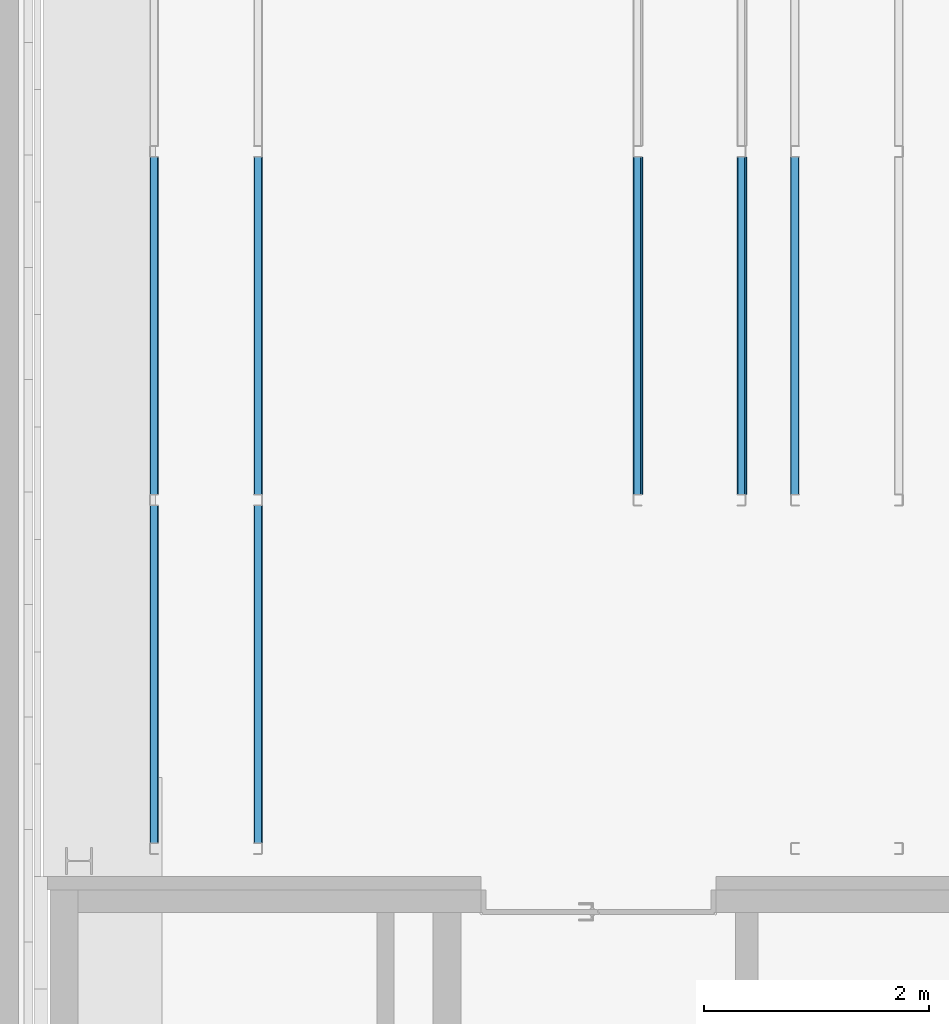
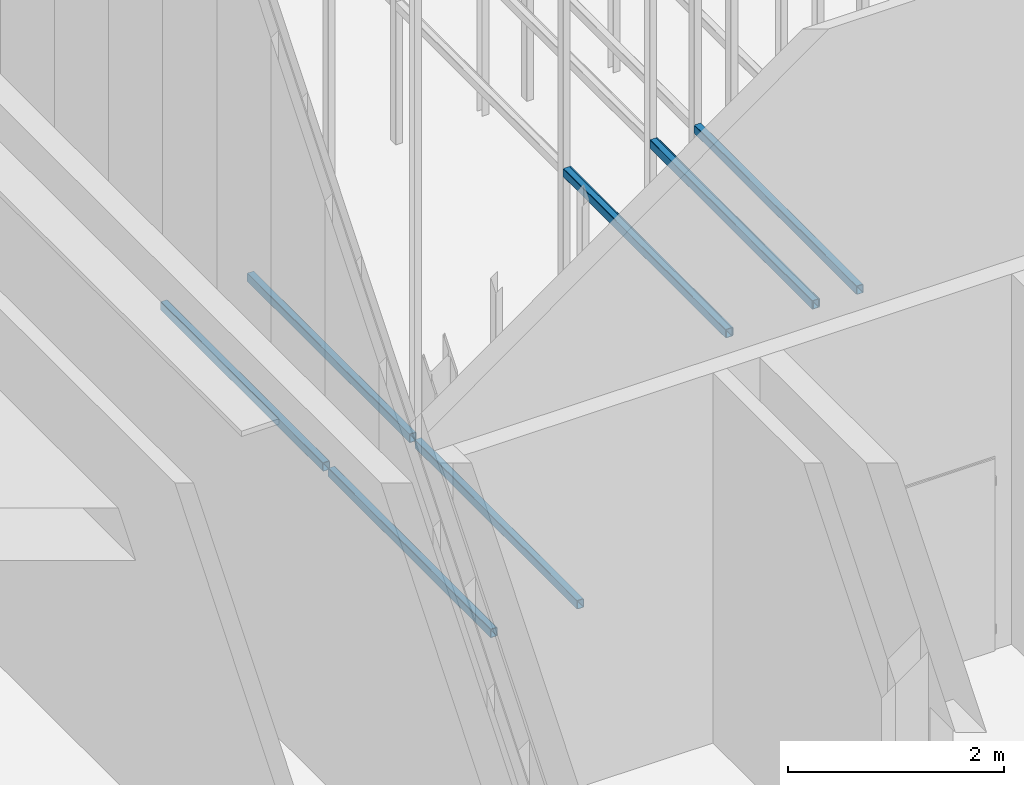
# One storey, part 138 of 302: 9 beams.
"""IFC2X3 building model written with IfcOpenShell, lengths in metres."""

from ifc_helpers import new_model, entity, si_unit, converted_unit, derived_unit, direction, frame, frame_2d, origin, place, context, subcontext, project, spatial, polyline, circle_curve, parameter, trimmed, segment, composite_curve, outline, extrude, material, type_object, element, save


model = new_model("IFC2X3")

# Units and contexts
model_context = context("Model", 3, precision=1e-05, world=origin(), true_north=direction((6.12303176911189e-17, 1.0)))
body_context = subcontext(model_context, "Body", "Model", "MODEL_VIEW")
ifc_project = project(units=[si_unit("LENGTHUNIT", "METRE"), si_unit("AREAUNIT", "SQUARE_METRE"), si_unit("VOLUMEUNIT", "CUBIC_METRE"), converted_unit("PLANEANGLEUNIT", "DEGREE", entity("IfcRatioMeasure", 0.0174532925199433), si_unit("PLANEANGLEUNIT", "RADIAN"), dimensions=[0, 0, 0, 0, 0, 0, 0]), si_unit("MASSUNIT", "GRAM", prefix="KILO"), derived_unit("MASSDENSITYUNIT", [(si_unit("MASSUNIT", "GRAM", prefix="KILO"), 1), (si_unit("LENGTHUNIT", "METRE"), -3)]), derived_unit("MOMENTOFINERTIAUNIT", [(si_unit("LENGTHUNIT", "METRE"), 4)]), si_unit("TIMEUNIT", "SECOND"), si_unit("FREQUENCYUNIT", "HERTZ"), si_unit("THERMODYNAMICTEMPERATUREUNIT", "DEGREE_CELSIUS"), derived_unit("THERMALTRANSMITTANCEUNIT", [(si_unit("MASSUNIT", "GRAM", prefix="KILO"), 1), (si_unit("THERMODYNAMICTEMPERATUREUNIT", "KELVIN"), -1), (si_unit("TIMEUNIT", "SECOND"), -3)]), derived_unit("VOLUMETRICFLOWRATEUNIT", [(si_unit("LENGTHUNIT", "METRE"), 3), (si_unit("TIMEUNIT", "SECOND"), -1)]), si_unit("ELECTRICCURRENTUNIT", "AMPERE"), si_unit("ELECTRICVOLTAGEUNIT", "VOLT"), si_unit("POWERUNIT", "WATT"), si_unit("FORCEUNIT", "NEWTON", prefix="KILO"), si_unit("ILLUMINANCEUNIT", "LUX"), si_unit("LUMINOUSFLUXUNIT", "LUMEN"), si_unit("LUMINOUSINTENSITYUNIT", "CANDELA"), derived_unit("USERDEFINED", [(si_unit("MASSUNIT", "GRAM", prefix="KILO"), -1), (si_unit("LENGTHUNIT", "METRE"), -2), (si_unit("TIMEUNIT", "SECOND"), 3), (si_unit("LUMINOUSFLUXUNIT", "LUMEN"), 1)]), derived_unit("LINEARVELOCITYUNIT", [(si_unit("LENGTHUNIT", "METRE"), 1), (si_unit("TIMEUNIT", "SECOND"), -1)]), si_unit("PRESSUREUNIT", "PASCAL"), derived_unit("USERDEFINED", [(si_unit("LENGTHUNIT", "METRE"), -2), (si_unit("MASSUNIT", "GRAM", prefix="KILO"), 1), (si_unit("TIMEUNIT", "SECOND"), -2)]), derived_unit("LINEARFORCEUNIT", [(si_unit("MASSUNIT", "GRAM", prefix="KILO"), 1), (si_unit("LENGTHUNIT", "METRE"), 1), (si_unit("TIMEUNIT", "SECOND"), -2), (si_unit("LENGTHUNIT", "METRE"), -1)]), derived_unit("PLANARFORCEUNIT", [(si_unit("MASSUNIT", "GRAM", prefix="KILO"), 1), (si_unit("LENGTHUNIT", "METRE"), 1), (si_unit("TIMEUNIT", "SECOND"), -2), (si_unit("LENGTHUNIT", "METRE"), -2)])], contexts=[model_context])

# Site, building, storey
site_placement = place(None, origin())
site = spatial("IfcSite", under=ifc_project, at=site_placement, Name="Default", CompositionType="ELEMENT")
building_placement = place(site_placement, origin())
building = spatial("IfcBuilding", under=site, at=building_placement, CompositionType="ELEMENT")
storey_placement = place(building_placement, frame((0.0, 0.0, -1.3)))
storey = spatial("IfcBuildingStorey", under=building, at=storey_placement, Name="00_EG", CompositionType="ELEMENT", Elevation=-1.3)

# Beams
ifc_material = material(Name="Metall - Baustahl S235 blau")
beam_type = type_object("IfcBeamType", Name="RHS Träger (EN 10219-2):RHS 100 x 75 x 5", PredefinedType="NOTDEFINED")
beam_1_placement = place(storey_placement, frame((-200.715111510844, 27.148088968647, 2.885), z_axis=(0.0, 0.0, 1.0), x_axis=(0.0, 1.0, 0.0)))
element("IfcBeam", 1, at=beam_1_placement, inside=storey, type_object=beam_type, material=ifc_material, Name="RHS Träger (EN 10219-2):RHS 100 x 75 x 5", ObjectType="RHS Träger (EN 10219-2):RHS 100 x 75 x 5", context=body_context, shape_type="SweptSolid", body=[
    extrude(outline(composite_curve([segment(trimmed(circle_curve(frame_2d((-0.0274999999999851, -0.0400000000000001), x_axis=(1.0, 0.0)), 0.01), [parameter(180.0)], [parameter(270.0)], True, "PARAMETER"), True, "CONTINUOUS"), segment(polyline([(-0.0274999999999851, -0.05), (0.0274999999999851, -0.05)]), True, "CONTINUOUS"), segment(trimmed(circle_curve(frame_2d((0.0274999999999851, -0.0400000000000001), x_axis=(1.0, 0.0)), 0.01), [parameter(270.0)], [parameter(5.08888749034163e-14)], True, "PARAMETER"), True, "CONTINUOUS"), segment(polyline([(0.0375000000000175, -0.0399999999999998), (0.0375000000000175, 0.0400000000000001)]), True, "CONTINUOUS"), segment(trimmed(circle_curve(frame_2d((0.0274999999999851, 0.0399999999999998), x_axis=(1.0, 0.0)), 0.01), [parameter(360.0)], [parameter(89.9999999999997)], True, "PARAMETER"), True, "CONTINUOUS"), segment(polyline([(0.0274999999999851, 0.05), (-0.0274999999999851, 0.05)]), True, "CONTINUOUS"), segment(trimmed(circle_curve(frame_2d((-0.0274999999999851, 0.0399999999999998), x_axis=(1.0, 0.0)), 0.01), [parameter(90.0000000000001)], [parameter(180.0)], True, "PARAMETER"), True, "CONTINUOUS"), segment(polyline([(-0.0374999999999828, 0.0400000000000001), (-0.0374999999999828, -0.0399999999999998)]), True, "CONTINUOUS")], self_intersect=False), holes=[composite_curve([segment(polyline([(0.0274999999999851, -0.0450000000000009), (-0.0274999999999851, -0.0450000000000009)]), True, "CONTINUOUS"), segment(trimmed(circle_curve(frame_2d((-0.0274999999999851, -0.0400000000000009), x_axis=(1.0, 0.0)), 0.005), [parameter(180.0)], [parameter(270.0)], True, "PARAMETER"), False, "CONTINUOUS"), segment(polyline([(-0.0325000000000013, -0.0400000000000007), (-0.0325000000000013, 0.0399999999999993)]), True, "CONTINUOUS"), segment(trimmed(circle_curve(frame_2d((-0.0274999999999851, 0.039999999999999), x_axis=(1.0, 0.0)), 0.005), [parameter(90.0000000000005)], [parameter(180.0)], True, "PARAMETER"), False, "CONTINUOUS"), segment(polyline([(-0.0274999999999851, 0.0449999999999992), (0.0274999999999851, 0.0449999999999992)]), True, "CONTINUOUS"), segment(trimmed(circle_curve(frame_2d((0.0274999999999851, 0.039999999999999), x_axis=(1.0, 0.0)), 0.005), [parameter(0.0)], [parameter(90.0000000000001)], True, "PARAMETER"), False, "CONTINUOUS"), segment(polyline([(0.0325000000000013, 0.0399999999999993), (0.0325000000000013, -0.0400000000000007)]), True, "CONTINUOUS"), segment(trimmed(circle_curve(frame_2d((0.0274999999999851, -0.0400000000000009), x_axis=(1.0, 0.0)), 0.005), [parameter(270.0)], [parameter(4.07110999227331e-13)], True, "PARAMETER"), False, "CONTINUOUS")], self_intersect=False)]), frame((9.99999999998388e-05, 0.0375000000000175, -0.0500000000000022), z_axis=(1.0, 0.0, 0.0), x_axis=(0.0, -1.0, 0.0)), (0.0, 0.0, 1.0), 2.9998),
])
beam_2_placement = place(storey_placement, frame((-202.105111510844, 27.148088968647, 2.885), z_axis=(0.0, 0.0, 1.0), x_axis=(0.0, 1.0, 0.0)))
element("IfcBeam", 2, at=beam_2_placement, inside=storey, type_object=beam_type, material=ifc_material, Name="RHS Träger (EN 10219-2):RHS 100 x 75 x 5", ObjectType="RHS Träger (EN 10219-2):RHS 100 x 75 x 5", context=body_context, shape_type="SweptSolid", body=[
    extrude(outline(composite_curve([segment(trimmed(circle_curve(frame_2d((-0.0274999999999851, -0.0400000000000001), x_axis=(1.0, 0.0)), 0.01), [parameter(180.0)], [parameter(270.0)], True, "PARAMETER"), True, "CONTINUOUS"), segment(polyline([(-0.0274999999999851, -0.05), (0.0274999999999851, -0.05)]), True, "CONTINUOUS"), segment(trimmed(circle_curve(frame_2d((0.0274999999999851, -0.0400000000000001), x_axis=(1.0, 0.0)), 0.01), [parameter(270.0)], [parameter(5.08888749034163e-14)], True, "PARAMETER"), True, "CONTINUOUS"), segment(polyline([(0.0375000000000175, -0.0399999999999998), (0.0375000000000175, 0.0400000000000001)]), True, "CONTINUOUS"), segment(trimmed(circle_curve(frame_2d((0.0274999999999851, 0.0399999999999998), x_axis=(1.0, 0.0)), 0.01), [parameter(360.0)], [parameter(89.9999999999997)], True, "PARAMETER"), True, "CONTINUOUS"), segment(polyline([(0.0274999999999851, 0.05), (-0.0274999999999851, 0.05)]), True, "CONTINUOUS"), segment(trimmed(circle_curve(frame_2d((-0.0274999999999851, 0.0399999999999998), x_axis=(1.0, 0.0)), 0.01), [parameter(90.0000000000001)], [parameter(180.0)], True, "PARAMETER"), True, "CONTINUOUS"), segment(polyline([(-0.0374999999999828, 0.0400000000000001), (-0.0374999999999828, -0.0399999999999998)]), True, "CONTINUOUS")], self_intersect=False), holes=[composite_curve([segment(polyline([(0.0274999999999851, -0.0450000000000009), (-0.0274999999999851, -0.0450000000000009)]), True, "CONTINUOUS"), segment(trimmed(circle_curve(frame_2d((-0.0274999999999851, -0.0400000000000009), x_axis=(1.0, 0.0)), 0.005), [parameter(180.0)], [parameter(270.0)], True, "PARAMETER"), False, "CONTINUOUS"), segment(polyline([(-0.0325000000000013, -0.0400000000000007), (-0.0325000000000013, 0.0399999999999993)]), True, "CONTINUOUS"), segment(trimmed(circle_curve(frame_2d((-0.0274999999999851, 0.039999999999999), x_axis=(1.0, 0.0)), 0.005), [parameter(90.0000000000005)], [parameter(180.0)], True, "PARAMETER"), False, "CONTINUOUS"), segment(polyline([(-0.0274999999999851, 0.0449999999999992), (0.0274999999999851, 0.0449999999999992)]), True, "CONTINUOUS"), segment(trimmed(circle_curve(frame_2d((0.0274999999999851, 0.039999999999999), x_axis=(1.0, 0.0)), 0.005), [parameter(0.0)], [parameter(90.0000000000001)], True, "PARAMETER"), False, "CONTINUOUS"), segment(polyline([(0.0325000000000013, 0.0399999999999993), (0.0325000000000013, -0.0400000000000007)]), True, "CONTINUOUS"), segment(trimmed(circle_curve(frame_2d((0.0274999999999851, -0.0400000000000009), x_axis=(1.0, 0.0)), 0.005), [parameter(270.0)], [parameter(4.07110999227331e-13)], True, "PARAMETER"), False, "CONTINUOUS")], self_intersect=False)]), frame((0.00010000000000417, 0.0375000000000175, -0.0500000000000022), z_axis=(1.0, 0.0, 0.0), x_axis=(0.0, -1.0, 0.0)), (0.0, 0.0, 1.0), 2.9998),
])
beam_3_placement = place(storey_placement, frame((-201.255111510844, 27.148088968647, 2.885), z_axis=(0.0, 0.0, 1.0), x_axis=(0.0, 1.0, 0.0)))
element("IfcBeam", 3, at=beam_3_placement, inside=storey, type_object=beam_type, material=ifc_material, Name="RHS Träger (EN 10219-2):RHS 100 x 75 x 5", ObjectType="RHS Träger (EN 10219-2):RHS 100 x 75 x 5", context=body_context, shape_type="SweptSolid", body=[
    extrude(outline(composite_curve([segment(polyline([(-0.0399999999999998, -0.0374999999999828), (0.0400000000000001, -0.0374999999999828)]), True, "CONTINUOUS"), segment(trimmed(circle_curve(frame_2d((0.0399999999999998, -0.0274999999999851), x_axis=(0.0, 1.0)), 0.01), [parameter(180.0)], [parameter(270.0)], True, "PARAMETER"), True, "CONTINUOUS"), segment(polyline([(0.05, -0.0274999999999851), (0.05, 0.0274999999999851)]), True, "CONTINUOUS"), segment(trimmed(circle_curve(frame_2d((0.0399999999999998, 0.0274999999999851), x_axis=(0.0, 1.0)), 0.01), [parameter(270.0)], [parameter(4.07110999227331e-13)], True, "PARAMETER"), True, "CONTINUOUS"), segment(polyline([(0.0400000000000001, 0.0375000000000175), (-0.0399999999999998, 0.0375000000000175)]), True, "CONTINUOUS"), segment(trimmed(circle_curve(frame_2d((-0.0400000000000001, 0.0274999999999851), x_axis=(0.0, 1.0)), 0.01), [parameter(360.0)], [parameter(90.0000000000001)], True, "PARAMETER"), True, "CONTINUOUS"), segment(polyline([(-0.05, 0.0274999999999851), (-0.05, -0.0274999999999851)]), True, "CONTINUOUS"), segment(trimmed(circle_curve(frame_2d((-0.0400000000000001, -0.0274999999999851), x_axis=(0.0, 1.0)), 0.01), [parameter(90.0000000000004)], [parameter(180.0)], True, "PARAMETER"), True, "CONTINUOUS")], self_intersect=False), holes=[composite_curve([segment(trimmed(circle_curve(frame_2d((-0.0400000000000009, 0.0274999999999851), x_axis=(0.0, 1.0)), 0.005), [parameter(360.0)], [parameter(89.9999999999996)], True, "PARAMETER"), False, "CONTINUOUS"), segment(polyline([(-0.0400000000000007, 0.0325000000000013), (0.0399999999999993, 0.0325000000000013)]), True, "CONTINUOUS"), segment(trimmed(circle_curve(frame_2d((0.039999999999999, 0.0274999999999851), x_axis=(0.0, 1.0)), 0.005), [parameter(270.0)], [parameter(0.0)], True, "PARAMETER"), False, "CONTINUOUS"), segment(polyline([(0.0449999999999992, 0.0274999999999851), (0.0449999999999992, -0.0274999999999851)]), True, "CONTINUOUS"), segment(trimmed(circle_curve(frame_2d((0.039999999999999, -0.0274999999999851), x_axis=(0.0, 1.0)), 0.005), [parameter(180.0)], [parameter(269.999999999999)], True, "PARAMETER"), False, "CONTINUOUS"), segment(polyline([(0.0399999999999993, -0.0325000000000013), (-0.0400000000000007, -0.0325000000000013)]), True, "CONTINUOUS"), segment(trimmed(circle_curve(frame_2d((-0.0400000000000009, -0.0274999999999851), x_axis=(0.0, 1.0)), 0.005), [parameter(90.0000000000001)], [parameter(180.0)], True, "PARAMETER"), False, "CONTINUOUS"), segment(polyline([(-0.0450000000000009, -0.0274999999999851), (-0.0450000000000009, 0.0274999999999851)]), True, "CONTINUOUS")], self_intersect=False)]), frame((0.00010000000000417, -0.0375000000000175, -0.0500000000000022), z_axis=(1.0, 0.0, 0.0), x_axis=(0.0, 0.0, -1.0)), (0.0, 0.0, 1.0), 2.9998),
])
beam_4_placement = place(storey_placement, frame((-206.415111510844, 27.148088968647, 2.885), z_axis=(0.0, 0.0, 1.0), x_axis=(0.0, 1.0, 0.0)))
element("IfcBeam", 4, at=beam_4_placement, inside=storey, type_object=beam_type, material=ifc_material, Name="RHS Träger (EN 10219-2):RHS 100 x 75 x 5", ObjectType="RHS Träger (EN 10219-2):RHS 100 x 75 x 5", context=body_context, shape_type="SweptSolid", body=[
    extrude(outline(composite_curve([segment(trimmed(circle_curve(frame_2d((-0.0274999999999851, -0.0400000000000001), x_axis=(1.0, 0.0)), 0.01), [parameter(180.0)], [parameter(270.0)], True, "PARAMETER"), True, "CONTINUOUS"), segment(polyline([(-0.0274999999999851, -0.05), (0.0274999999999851, -0.05)]), True, "CONTINUOUS"), segment(trimmed(circle_curve(frame_2d((0.0274999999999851, -0.0400000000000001), x_axis=(1.0, 0.0)), 0.01), [parameter(270.0)], [parameter(5.08888749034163e-14)], True, "PARAMETER"), True, "CONTINUOUS"), segment(polyline([(0.0375000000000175, -0.0399999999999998), (0.0375000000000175, 0.0400000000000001)]), True, "CONTINUOUS"), segment(trimmed(circle_curve(frame_2d((0.0274999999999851, 0.0399999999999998), x_axis=(1.0, 0.0)), 0.01), [parameter(360.0)], [parameter(89.9999999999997)], True, "PARAMETER"), True, "CONTINUOUS"), segment(polyline([(0.0274999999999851, 0.05), (-0.0274999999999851, 0.05)]), True, "CONTINUOUS"), segment(trimmed(circle_curve(frame_2d((-0.0274999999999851, 0.0399999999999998), x_axis=(1.0, 0.0)), 0.01), [parameter(90.0000000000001)], [parameter(180.0)], True, "PARAMETER"), True, "CONTINUOUS"), segment(polyline([(-0.0374999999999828, 0.0400000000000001), (-0.0374999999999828, -0.0399999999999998)]), True, "CONTINUOUS")], self_intersect=False), holes=[composite_curve([segment(polyline([(0.0274999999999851, -0.0450000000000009), (-0.0274999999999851, -0.0450000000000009)]), True, "CONTINUOUS"), segment(trimmed(circle_curve(frame_2d((-0.0274999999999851, -0.0400000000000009), x_axis=(1.0, 0.0)), 0.005), [parameter(180.0)], [parameter(270.0)], True, "PARAMETER"), False, "CONTINUOUS"), segment(polyline([(-0.0325000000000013, -0.0400000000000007), (-0.0325000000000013, 0.0399999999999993)]), True, "CONTINUOUS"), segment(trimmed(circle_curve(frame_2d((-0.0274999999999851, 0.039999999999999), x_axis=(1.0, 0.0)), 0.005), [parameter(90.0000000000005)], [parameter(180.0)], True, "PARAMETER"), False, "CONTINUOUS"), segment(polyline([(-0.0274999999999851, 0.0449999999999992), (0.0274999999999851, 0.0449999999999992)]), True, "CONTINUOUS"), segment(trimmed(circle_curve(frame_2d((0.0274999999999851, 0.039999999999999), x_axis=(1.0, 0.0)), 0.005), [parameter(0.0)], [parameter(90.0000000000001)], True, "PARAMETER"), False, "CONTINUOUS"), segment(polyline([(0.0325000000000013, 0.0399999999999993), (0.0325000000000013, -0.0400000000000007)]), True, "CONTINUOUS"), segment(trimmed(circle_curve(frame_2d((0.0274999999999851, -0.0400000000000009), x_axis=(1.0, 0.0)), 0.005), [parameter(270.0)], [parameter(4.07110999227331e-13)], True, "PARAMETER"), False, "CONTINUOUS")], self_intersect=False)]), frame((9.99999999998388e-05, 0.0375000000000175, -0.0500000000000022), z_axis=(1.0, 0.0, 0.0), x_axis=(0.0, -1.0, 0.0)), (0.0, 0.0, 1.0), 2.9998),
])
beam_5_placement = place(storey_placement, frame((-205.565111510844, 27.148088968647, 2.885), z_axis=(0.0, 0.0, 1.0), x_axis=(0.0, 1.0, 0.0)))
element("IfcBeam", 5, at=beam_5_placement, inside=storey, type_object=beam_type, material=ifc_material, Name="RHS Träger (EN 10219-2):RHS 100 x 75 x 5", ObjectType="RHS Träger (EN 10219-2):RHS 100 x 75 x 5", context=body_context, shape_type="SweptSolid", body=[
    extrude(outline(composite_curve([segment(polyline([(-0.0399999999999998, -0.0374999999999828), (0.0400000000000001, -0.0374999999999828)]), True, "CONTINUOUS"), segment(trimmed(circle_curve(frame_2d((0.0399999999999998, -0.0274999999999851), x_axis=(0.0, 1.0)), 0.01), [parameter(180.0)], [parameter(270.0)], True, "PARAMETER"), True, "CONTINUOUS"), segment(polyline([(0.05, -0.0274999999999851), (0.05, 0.0274999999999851)]), True, "CONTINUOUS"), segment(trimmed(circle_curve(frame_2d((0.0399999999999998, 0.0274999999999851), x_axis=(0.0, 1.0)), 0.01), [parameter(270.0)], [parameter(4.07110999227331e-13)], True, "PARAMETER"), True, "CONTINUOUS"), segment(polyline([(0.0400000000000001, 0.0375000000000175), (-0.0399999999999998, 0.0375000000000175)]), True, "CONTINUOUS"), segment(trimmed(circle_curve(frame_2d((-0.0400000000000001, 0.0274999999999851), x_axis=(0.0, 1.0)), 0.01), [parameter(360.0)], [parameter(90.0000000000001)], True, "PARAMETER"), True, "CONTINUOUS"), segment(polyline([(-0.05, 0.0274999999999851), (-0.05, -0.0274999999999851)]), True, "CONTINUOUS"), segment(trimmed(circle_curve(frame_2d((-0.0400000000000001, -0.0274999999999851), x_axis=(0.0, 1.0)), 0.01), [parameter(90.0000000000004)], [parameter(180.0)], True, "PARAMETER"), True, "CONTINUOUS")], self_intersect=False), holes=[composite_curve([segment(trimmed(circle_curve(frame_2d((-0.0400000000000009, 0.0274999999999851), x_axis=(0.0, 1.0)), 0.005), [parameter(360.0)], [parameter(89.9999999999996)], True, "PARAMETER"), False, "CONTINUOUS"), segment(polyline([(-0.0400000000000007, 0.0325000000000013), (0.0399999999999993, 0.0325000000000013)]), True, "CONTINUOUS"), segment(trimmed(circle_curve(frame_2d((0.039999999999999, 0.0274999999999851), x_axis=(0.0, 1.0)), 0.005), [parameter(270.0)], [parameter(0.0)], True, "PARAMETER"), False, "CONTINUOUS"), segment(polyline([(0.0449999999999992, 0.0274999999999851), (0.0449999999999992, -0.0274999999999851)]), True, "CONTINUOUS"), segment(trimmed(circle_curve(frame_2d((0.039999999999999, -0.0274999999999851), x_axis=(0.0, 1.0)), 0.005), [parameter(180.0)], [parameter(269.999999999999)], True, "PARAMETER"), False, "CONTINUOUS"), segment(polyline([(0.0399999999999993, -0.0325000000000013), (-0.0400000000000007, -0.0325000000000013)]), True, "CONTINUOUS"), segment(trimmed(circle_curve(frame_2d((-0.0400000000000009, -0.0274999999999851), x_axis=(0.0, 1.0)), 0.005), [parameter(90.0000000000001)], [parameter(180.0)], True, "PARAMETER"), False, "CONTINUOUS"), segment(polyline([(-0.0450000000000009, -0.0274999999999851), (-0.0450000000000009, 0.0274999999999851)]), True, "CONTINUOUS")], self_intersect=False)]), frame((9.99999999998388e-05, -0.0375000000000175, -0.0500000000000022), z_axis=(1.0, 0.0, 0.0), x_axis=(0.0, 0.0, -1.0)), (0.0, 0.0, 1.0), 2.9998),
])
beam_6_placement = place(storey_placement, frame((-202.115111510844, 27.148088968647, 2.885), z_axis=(0.0, 0.0, 1.0), x_axis=(0.0, 1.0, 0.0)))
element("IfcBeam", 6, at=beam_6_placement, inside=storey, type_object=beam_type, material=ifc_material, Name="RHS Träger (EN 10219-2):RHS 100 x 75 x 5", ObjectType="RHS Träger (EN 10219-2):RHS 100 x 75 x 5", context=body_context, shape_type="SweptSolid", body=[
    extrude(outline(composite_curve([segment(trimmed(circle_curve(frame_2d((-0.0274999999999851, -0.0400000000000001), x_axis=(1.0, 0.0)), 0.01), [parameter(180.0)], [parameter(270.0)], True, "PARAMETER"), True, "CONTINUOUS"), segment(polyline([(-0.0274999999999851, -0.05), (0.0274999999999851, -0.05)]), True, "CONTINUOUS"), segment(trimmed(circle_curve(frame_2d((0.0274999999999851, -0.0400000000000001), x_axis=(1.0, 0.0)), 0.01), [parameter(270.0)], [parameter(5.08888749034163e-14)], True, "PARAMETER"), True, "CONTINUOUS"), segment(polyline([(0.0375000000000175, -0.0399999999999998), (0.0375000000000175, 0.0400000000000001)]), True, "CONTINUOUS"), segment(trimmed(circle_curve(frame_2d((0.0274999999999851, 0.0399999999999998), x_axis=(1.0, 0.0)), 0.01), [parameter(360.0)], [parameter(89.9999999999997)], True, "PARAMETER"), True, "CONTINUOUS"), segment(polyline([(0.0274999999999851, 0.05), (-0.0274999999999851, 0.05)]), True, "CONTINUOUS"), segment(trimmed(circle_curve(frame_2d((-0.0274999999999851, 0.0399999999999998), x_axis=(1.0, 0.0)), 0.01), [parameter(90.0000000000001)], [parameter(180.0)], True, "PARAMETER"), True, "CONTINUOUS"), segment(polyline([(-0.0374999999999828, 0.0400000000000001), (-0.0374999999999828, -0.0399999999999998)]), True, "CONTINUOUS")], self_intersect=False), holes=[composite_curve([segment(polyline([(0.0274999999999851, -0.0450000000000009), (-0.0274999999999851, -0.0450000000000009)]), True, "CONTINUOUS"), segment(trimmed(circle_curve(frame_2d((-0.0274999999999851, -0.0400000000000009), x_axis=(1.0, 0.0)), 0.005), [parameter(180.0)], [parameter(270.0)], True, "PARAMETER"), False, "CONTINUOUS"), segment(polyline([(-0.0325000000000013, -0.0400000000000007), (-0.0325000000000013, 0.0399999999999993)]), True, "CONTINUOUS"), segment(trimmed(circle_curve(frame_2d((-0.0274999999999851, 0.039999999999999), x_axis=(1.0, 0.0)), 0.005), [parameter(90.0000000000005)], [parameter(180.0)], True, "PARAMETER"), False, "CONTINUOUS"), segment(polyline([(-0.0274999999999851, 0.0449999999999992), (0.0274999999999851, 0.0449999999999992)]), True, "CONTINUOUS"), segment(trimmed(circle_curve(frame_2d((0.0274999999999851, 0.039999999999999), x_axis=(1.0, 0.0)), 0.005), [parameter(0.0)], [parameter(90.0000000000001)], True, "PARAMETER"), False, "CONTINUOUS"), segment(polyline([(0.0325000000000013, 0.0399999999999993), (0.0325000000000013, -0.0400000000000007)]), True, "CONTINUOUS"), segment(trimmed(circle_curve(frame_2d((0.0274999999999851, -0.0400000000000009), x_axis=(1.0, 0.0)), 0.005), [parameter(270.0)], [parameter(4.07110999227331e-13)], True, "PARAMETER"), False, "CONTINUOUS")], self_intersect=False)]), frame((0.00010000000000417, 0.0375000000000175, -0.0500000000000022), z_axis=(1.0, 0.0, 0.0), x_axis=(0.0, -1.0, 0.0)), (0.0, 0.0, 1.0), 2.9998),
])
beam_7_placement = place(storey_placement, frame((-201.265111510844, 27.148088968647, 2.885), z_axis=(0.0, 0.0, 1.0), x_axis=(0.0, 1.0, 0.0)))
element("IfcBeam", 7, at=beam_7_placement, inside=storey, type_object=beam_type, material=ifc_material, Name="RHS Träger (EN 10219-2):RHS 100 x 75 x 5", ObjectType="RHS Träger (EN 10219-2):RHS 100 x 75 x 5", context=body_context, shape_type="SweptSolid", body=[
    extrude(outline(composite_curve([segment(polyline([(-0.0399999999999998, -0.0374999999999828), (0.0400000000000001, -0.0374999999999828)]), True, "CONTINUOUS"), segment(trimmed(circle_curve(frame_2d((0.0399999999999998, -0.0274999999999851), x_axis=(0.0, 1.0)), 0.01), [parameter(180.0)], [parameter(270.0)], True, "PARAMETER"), True, "CONTINUOUS"), segment(polyline([(0.05, -0.0274999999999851), (0.05, 0.0274999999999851)]), True, "CONTINUOUS"), segment(trimmed(circle_curve(frame_2d((0.0399999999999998, 0.0274999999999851), x_axis=(0.0, 1.0)), 0.01), [parameter(270.0)], [parameter(4.07110999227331e-13)], True, "PARAMETER"), True, "CONTINUOUS"), segment(polyline([(0.0400000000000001, 0.0375000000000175), (-0.0399999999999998, 0.0375000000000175)]), True, "CONTINUOUS"), segment(trimmed(circle_curve(frame_2d((-0.0400000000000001, 0.0274999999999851), x_axis=(0.0, 1.0)), 0.01), [parameter(360.0)], [parameter(90.0000000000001)], True, "PARAMETER"), True, "CONTINUOUS"), segment(polyline([(-0.05, 0.0274999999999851), (-0.05, -0.0274999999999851)]), True, "CONTINUOUS"), segment(trimmed(circle_curve(frame_2d((-0.0400000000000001, -0.0274999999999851), x_axis=(0.0, 1.0)), 0.01), [parameter(90.0000000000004)], [parameter(180.0)], True, "PARAMETER"), True, "CONTINUOUS")], self_intersect=False), holes=[composite_curve([segment(trimmed(circle_curve(frame_2d((-0.0400000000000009, 0.0274999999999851), x_axis=(0.0, 1.0)), 0.005), [parameter(360.0)], [parameter(89.9999999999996)], True, "PARAMETER"), False, "CONTINUOUS"), segment(polyline([(-0.0400000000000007, 0.0325000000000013), (0.0399999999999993, 0.0325000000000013)]), True, "CONTINUOUS"), segment(trimmed(circle_curve(frame_2d((0.039999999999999, 0.0274999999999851), x_axis=(0.0, 1.0)), 0.005), [parameter(270.0)], [parameter(0.0)], True, "PARAMETER"), False, "CONTINUOUS"), segment(polyline([(0.0449999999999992, 0.0274999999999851), (0.0449999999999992, -0.0274999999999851)]), True, "CONTINUOUS"), segment(trimmed(circle_curve(frame_2d((0.039999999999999, -0.0274999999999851), x_axis=(0.0, 1.0)), 0.005), [parameter(180.0)], [parameter(269.999999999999)], True, "PARAMETER"), False, "CONTINUOUS"), segment(polyline([(0.0399999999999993, -0.0325000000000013), (-0.0400000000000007, -0.0325000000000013)]), True, "CONTINUOUS"), segment(trimmed(circle_curve(frame_2d((-0.0400000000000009, -0.0274999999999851), x_axis=(0.0, 1.0)), 0.005), [parameter(90.0000000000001)], [parameter(180.0)], True, "PARAMETER"), False, "CONTINUOUS"), segment(polyline([(-0.0450000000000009, -0.0274999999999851), (-0.0450000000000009, 0.0274999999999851)]), True, "CONTINUOUS")], self_intersect=False)]), frame((0.00010000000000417, -0.0375000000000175, -0.0500000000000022), z_axis=(1.0, 0.0, 0.0), x_axis=(0.0, 0.0, -1.0)), (0.0, 0.0, 1.0), 2.9998),
])
beam_8_placement = place(storey_placement, frame((-206.415111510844, 24.048088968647, 2.885), z_axis=(0.0, 0.0, 1.0), x_axis=(0.0, 1.0, 0.0)))
element("IfcBeam", 8, at=beam_8_placement, inside=storey, type_object=beam_type, material=ifc_material, Name="RHS Träger (EN 10219-2):RHS 100 x 75 x 5", ObjectType="RHS Träger (EN 10219-2):RHS 100 x 75 x 5", context=body_context, shape_type="SweptSolid", body=[
    extrude(outline(composite_curve([segment(trimmed(circle_curve(frame_2d((-0.0274999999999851, -0.0400000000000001), x_axis=(1.0, 0.0)), 0.01), [parameter(180.0)], [parameter(270.0)], True, "PARAMETER"), True, "CONTINUOUS"), segment(polyline([(-0.0274999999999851, -0.05), (0.0274999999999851, -0.05)]), True, "CONTINUOUS"), segment(trimmed(circle_curve(frame_2d((0.0274999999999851, -0.0400000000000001), x_axis=(1.0, 0.0)), 0.01), [parameter(270.0)], [parameter(5.08888749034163e-14)], True, "PARAMETER"), True, "CONTINUOUS"), segment(polyline([(0.0375000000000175, -0.0399999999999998), (0.0375000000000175, 0.0400000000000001)]), True, "CONTINUOUS"), segment(trimmed(circle_curve(frame_2d((0.0274999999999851, 0.0399999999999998), x_axis=(1.0, 0.0)), 0.01), [parameter(360.0)], [parameter(89.9999999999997)], True, "PARAMETER"), True, "CONTINUOUS"), segment(polyline([(0.0274999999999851, 0.05), (-0.0274999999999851, 0.05)]), True, "CONTINUOUS"), segment(trimmed(circle_curve(frame_2d((-0.0274999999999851, 0.0399999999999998), x_axis=(1.0, 0.0)), 0.01), [parameter(90.0000000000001)], [parameter(180.0)], True, "PARAMETER"), True, "CONTINUOUS"), segment(polyline([(-0.0374999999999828, 0.0400000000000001), (-0.0374999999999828, -0.0399999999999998)]), True, "CONTINUOUS")], self_intersect=False), holes=[composite_curve([segment(polyline([(0.0274999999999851, -0.0450000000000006), (-0.0274999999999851, -0.0450000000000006)]), True, "CONTINUOUS"), segment(trimmed(circle_curve(frame_2d((-0.0274999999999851, -0.0400000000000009), x_axis=(1.0, 0.0)), 0.005), [parameter(180.0)], [parameter(270.0)], True, "PARAMETER"), False, "CONTINUOUS"), segment(polyline([(-0.0325000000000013, -0.0400000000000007), (-0.0325000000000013, 0.0399999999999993)]), True, "CONTINUOUS"), segment(trimmed(circle_curve(frame_2d((-0.0274999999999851, 0.039999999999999), x_axis=(1.0, 0.0)), 0.005), [parameter(90.0000000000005)], [parameter(180.0)], True, "PARAMETER"), False, "CONTINUOUS"), segment(polyline([(-0.0274999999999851, 0.0449999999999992), (0.0274999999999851, 0.0449999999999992)]), True, "CONTINUOUS"), segment(trimmed(circle_curve(frame_2d((0.0274999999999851, 0.039999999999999), x_axis=(1.0, 0.0)), 0.005), [parameter(0.0)], [parameter(90.0000000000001)], True, "PARAMETER"), False, "CONTINUOUS"), segment(polyline([(0.0325000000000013, 0.0399999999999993), (0.0325000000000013, -0.0400000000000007)]), True, "CONTINUOUS"), segment(trimmed(circle_curve(frame_2d((0.0274999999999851, -0.0400000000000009), x_axis=(1.0, 0.0)), 0.005), [parameter(270.0)], [parameter(4.07110999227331e-13)], True, "PARAMETER"), False, "CONTINUOUS")], self_intersect=False)]), frame((9.99999999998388e-05, 0.0375000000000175, -0.0500000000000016), z_axis=(1.0, 0.0, 0.0), x_axis=(0.0, -1.0, 0.0)), (0.0, 0.0, 1.0), 2.9998),
])
beam_9_placement = place(storey_placement, frame((-205.565111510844, 24.048088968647, 2.885), z_axis=(0.0, 0.0, 1.0), x_axis=(0.0, 1.0, 0.0)))
element("IfcBeam", 9, at=beam_9_placement, inside=storey, type_object=beam_type, material=ifc_material, Name="RHS Träger (EN 10219-2):RHS 100 x 75 x 5", ObjectType="RHS Träger (EN 10219-2):RHS 100 x 75 x 5", context=body_context, shape_type="SweptSolid", body=[
    extrude(outline(composite_curve([segment(polyline([(-0.0399999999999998, -0.0374999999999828), (0.0400000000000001, -0.0374999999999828)]), True, "CONTINUOUS"), segment(trimmed(circle_curve(frame_2d((0.0399999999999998, -0.0274999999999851), x_axis=(0.0, 1.0)), 0.01), [parameter(180.0)], [parameter(270.0)], True, "PARAMETER"), True, "CONTINUOUS"), segment(polyline([(0.05, -0.0274999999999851), (0.05, 0.0274999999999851)]), True, "CONTINUOUS"), segment(trimmed(circle_curve(frame_2d((0.0399999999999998, 0.0274999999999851), x_axis=(0.0, 1.0)), 0.01), [parameter(270.0)], [parameter(4.07110999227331e-13)], True, "PARAMETER"), True, "CONTINUOUS"), segment(polyline([(0.0400000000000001, 0.0375000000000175), (-0.0399999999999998, 0.0375000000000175)]), True, "CONTINUOUS"), segment(trimmed(circle_curve(frame_2d((-0.0400000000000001, 0.0274999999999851), x_axis=(0.0, 1.0)), 0.01), [parameter(360.0)], [parameter(90.0000000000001)], True, "PARAMETER"), True, "CONTINUOUS"), segment(polyline([(-0.05, 0.0274999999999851), (-0.05, -0.0274999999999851)]), True, "CONTINUOUS"), segment(trimmed(circle_curve(frame_2d((-0.0400000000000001, -0.0274999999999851), x_axis=(0.0, 1.0)), 0.01), [parameter(90.0000000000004)], [parameter(180.0)], True, "PARAMETER"), True, "CONTINUOUS")], self_intersect=False), holes=[composite_curve([segment(trimmed(circle_curve(frame_2d((-0.0400000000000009, 0.0274999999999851), x_axis=(0.0, 1.0)), 0.005), [parameter(360.0)], [parameter(89.9999999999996)], True, "PARAMETER"), False, "CONTINUOUS"), segment(polyline([(-0.0400000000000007, 0.0325000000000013), (0.0399999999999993, 0.0325000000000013)]), True, "CONTINUOUS"), segment(trimmed(circle_curve(frame_2d((0.039999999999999, 0.0274999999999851), x_axis=(0.0, 1.0)), 0.005), [parameter(270.0)], [parameter(0.0)], True, "PARAMETER"), False, "CONTINUOUS"), segment(polyline([(0.0449999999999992, 0.0274999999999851), (0.0449999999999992, -0.0274999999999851)]), True, "CONTINUOUS"), segment(trimmed(circle_curve(frame_2d((0.039999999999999, -0.0274999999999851), x_axis=(0.0, 1.0)), 0.005), [parameter(180.0)], [parameter(269.999999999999)], True, "PARAMETER"), False, "CONTINUOUS"), segment(polyline([(0.0399999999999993, -0.0325000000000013), (-0.0400000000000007, -0.0325000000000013)]), True, "CONTINUOUS"), segment(trimmed(circle_curve(frame_2d((-0.0400000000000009, -0.0274999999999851), x_axis=(0.0, 1.0)), 0.005), [parameter(90.0000000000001)], [parameter(180.0)], True, "PARAMETER"), False, "CONTINUOUS"), segment(polyline([(-0.0450000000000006, -0.0274999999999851), (-0.0450000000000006, 0.0274999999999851)]), True, "CONTINUOUS")], self_intersect=False)]), frame((9.99999999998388e-05, -0.0375000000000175, -0.0500000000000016), z_axis=(1.0, 0.0, 0.0), x_axis=(0.0, 0.0, -1.0)), (0.0, 0.0, 1.0), 2.9998),
])

save(model, "model.ifc")
